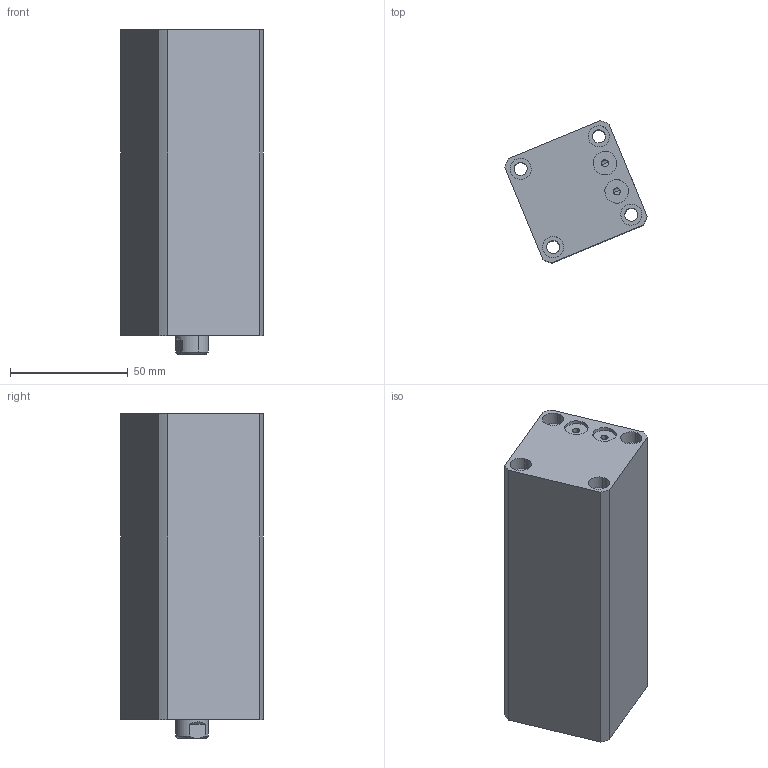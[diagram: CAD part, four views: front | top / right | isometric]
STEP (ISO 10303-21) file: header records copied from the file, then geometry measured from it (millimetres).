
FILE_DESCRIPTION (( 'STEP AP214' ), '1' );
FILE_NAME ('chtb-sdmb25x85n_asm.STEP', '2018-05-24T01:41:31', ( 'Windows' ), ( 'Microsoft' ), 'SwSTEP 2.0', 'SolidWorks 2015', '' );
FILE_SCHEMA (( 'AUTOMOTIVE_DESIGN' ));
Length unit declared in the file: millimetre
Products named in the file (4): chtb-sdmb25x85n_asm; CHTB-SDMB25X85NHSG; CHTB-SDMB25X85NBT; CHTB-25QG
Assembly tree (3 placements, depth 2):
  chtb-sdmb25x85n_asm
    CHTB-25QG
    CHTB-SDMB25X85NBT
    CHTB-SDMB25X85NHSG
Bounding box: 60.55 x 60.55 x 138 mm (x, y, z)
Volume: 251714.7 mm3; surface area: 62762 mm2
Topology: 3 solids, 3 shells, 142 faces, 379 edges, 257 vertices
Faces by surface type: cylinder 89, plane 34, bspline 10, cone 9
Entity records: 8024 total; most frequent: CARTESIAN_POINT 4397, ORIENTED_EDGE 746, DIRECTION 661, EDGE_CURVE 373, AXIS2_PLACEMENT_3D 272, VERTEX_POINT 257, EDGE_LOOP 180, ADVANCED_FACE 142
